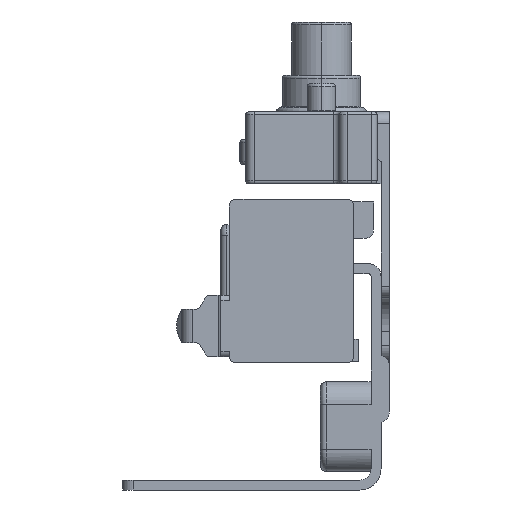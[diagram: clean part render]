
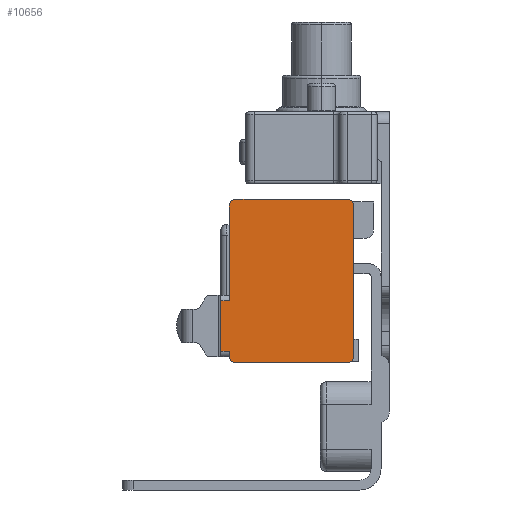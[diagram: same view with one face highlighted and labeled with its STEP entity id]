
A CAD part, left-side view. The second image highlights one B-rep face of the part: STEP entity #10656.
In plain terms, the highlighted planar face has unit normal (-1, 0, 0).
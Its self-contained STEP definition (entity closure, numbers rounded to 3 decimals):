
#89 = CARTESIAN_POINT ( 'NONE',  ( -328., 5.9, -40.46 ) ) ;
#92 = LINE ( 'NONE', #8483, #7431 ) ;
#232 = ORIENTED_EDGE ( 'NONE', *, *, #7773, .F. ) ;
#631 = VERTEX_POINT ( 'NONE', #11273 ) ;
#745 = CARTESIAN_POINT ( 'NONE',  ( -328., 27., -38.46 ) ) ;
#1003 = ORIENTED_EDGE ( 'NONE', *, *, #4484, .F. ) ;
#1057 = DIRECTION ( 'NONE',  ( 1., 0., 0. ) ) ;
#1077 = VERTEX_POINT ( 'NONE', #10969 ) ;
#1121 = ORIENTED_EDGE ( 'NONE', *, *, #7075, .F. ) ;
#1418 = VECTOR ( 'NONE', #10000, 1000. ) ;
#1499 = EDGE_CURVE ( 'NONE', #11502, #4355, #2665, .T. ) ;
#1536 = CARTESIAN_POINT ( 'NONE',  ( -328., 26., -39.46 ) ) ;
#1634 = AXIS2_PLACEMENT_3D ( 'NONE', #6784, #1057, #7779 ) ;
#1664 = VERTEX_POINT ( 'NONE', #4752 ) ;
#1735 = VERTEX_POINT ( 'NONE', #11536 ) ;
#1755 = VECTOR ( 'NONE', #9725, 1000. ) ;
#1789 = DIRECTION ( 'NONE',  ( 0., 0., -1. ) ) ;
#1886 = ORIENTED_EDGE ( 'NONE', *, *, #11052, .F. ) ;
#1951 = DIRECTION ( 'NONE',  ( 1., 0., 0. ) ) ;
#1997 = CARTESIAN_POINT ( 'NONE',  ( -328., 5.9, -39.46 ) ) ;
#2324 = EDGE_LOOP ( 'NONE', ( #4873, #3465, #1121, #4583, #1886, #232, #1003, #6996, #5151, #6050, #8710, #7364 ) ) ;
#2361 = DIRECTION ( 'NONE',  ( 1., 0., 0. ) ) ;
#2394 = EDGE_CURVE ( 'NONE', #6831, #1735, #5503, .T. ) ;
#2517 = DIRECTION ( 'NONE',  ( 0., 1., 0. ) ) ;
#2522 = EDGE_CURVE ( 'NONE', #8537, #10029, #9674, .T. ) ;
#2565 = AXIS2_PLACEMENT_3D ( 'NONE', #4824, #1951, #8667 ) ;
#2620 = VECTOR ( 'NONE', #8139, 1000. ) ;
#2665 = CIRCLE ( 'NONE', #3464, 1. ) ;
#2990 = DIRECTION ( 'NONE',  ( 0., 1., 0. ) ) ;
#3445 = CARTESIAN_POINT ( 'NONE',  ( -328., 28.5, -38.46 ) ) ;
#3464 = AXIS2_PLACEMENT_3D ( 'NONE', #1536, #8254, #2517 ) ;
#3465 = ORIENTED_EDGE ( 'NONE', *, *, #10278, .F. ) ;
#3471 = CARTESIAN_POINT ( 'NONE',  ( -328., 5.9, -40.46 ) ) ;
#3694 = LINE ( 'NONE', #4257, #1418 ) ;
#3795 = AXIS2_PLACEMENT_3D ( 'NONE', #8096, #2361, #9052 ) ;
#4164 = VERTEX_POINT ( 'NONE', #9493 ) ;
#4257 = CARTESIAN_POINT ( 'NONE',  ( -328., 28.5, -29.46 ) ) ;
#4355 = VERTEX_POINT ( 'NONE', #8940 ) ;
#4458 = VECTOR ( 'NONE', #11722, 1000. ) ;
#4484 = EDGE_CURVE ( 'NONE', #7776, #631, #7726, .T. ) ;
#4569 = DIRECTION ( 'NONE',  ( 0., 0., 1. ) ) ;
#4583 = ORIENTED_EDGE ( 'NONE', *, *, #2522, .F. ) ;
#4623 = LINE ( 'NONE', #4921, #1755 ) ;
#4752 = CARTESIAN_POINT ( 'NONE',  ( -328., 26., -11.43 ) ) ;
#4824 = CARTESIAN_POINT ( 'NONE',  ( -328., 5.9, -39.46 ) ) ;
#4873 = ORIENTED_EDGE ( 'NONE', *, *, #2394, .F. ) ;
#4921 = CARTESIAN_POINT ( 'NONE',  ( -328., 27., -12.43 ) ) ;
#5151 = ORIENTED_EDGE ( 'NONE', *, *, #1499, .F. ) ;
#5503 = CIRCLE ( 'NONE', #3795, 1. ) ;
#6007 = CARTESIAN_POINT ( 'NONE',  ( -328., 5.9, -11.43 ) ) ;
#6048 = EDGE_CURVE ( 'NONE', #1077, #7306, #7451, .T. ) ;
#6050 = ORIENTED_EDGE ( 'NONE', *, *, #6863, .F. ) ;
#6091 = EDGE_CURVE ( 'NONE', #4355, #7776, #4623, .T. ) ;
#6455 = CARTESIAN_POINT ( 'NONE',  ( -328., 27., -12.43 ) ) ;
#6486 = CARTESIAN_POINT ( 'NONE',  ( -328., 28.5, -39.46 ) ) ;
#6492 = EDGE_CURVE ( 'NONE', #1735, #1077, #92, .T. ) ;
#6784 = CARTESIAN_POINT ( 'NONE',  ( -328., 26., -12.43 ) ) ;
#6825 = CIRCLE ( 'NONE', #1634, 1. ) ;
#6826 = VECTOR ( 'NONE', #4569, 1000. ) ;
#6831 = VERTEX_POINT ( 'NONE', #10917 ) ;
#6863 = EDGE_CURVE ( 'NONE', #7306, #11502, #11775, .T. ) ;
#6992 = LINE ( 'NONE', #6007, #4458 ) ;
#6996 = ORIENTED_EDGE ( 'NONE', *, *, #6091, .F. ) ;
#7068 = CARTESIAN_POINT ( 'NONE',  ( -328., 27., -29.46 ) ) ;
#7075 = EDGE_CURVE ( 'NONE', #10029, #1664, #6825, .T. ) ;
#7120 = VECTOR ( 'NONE', #12075, 1000. ) ;
#7126 = LINE ( 'NONE', #6486, #6826 ) ;
#7306 = VERTEX_POINT ( 'NONE', #89 ) ;
#7364 = ORIENTED_EDGE ( 'NONE', *, *, #6492, .F. ) ;
#7431 = VECTOR ( 'NONE', #1789, 1000. ) ;
#7451 = CIRCLE ( 'NONE', #10926, 1. ) ;
#7726 = LINE ( 'NONE', #3445, #2620 ) ;
#7773 = EDGE_CURVE ( 'NONE', #631, #4164, #7126, .T. ) ;
#7776 = VERTEX_POINT ( 'NONE', #745 ) ;
#7779 = DIRECTION ( 'NONE',  ( 0., 1., 0. ) ) ;
#7807 = CARTESIAN_POINT ( 'NONE',  ( -328., 26., -40.46 ) ) ;
#8096 = CARTESIAN_POINT ( 'NONE',  ( -328., 5.9, -12.43 ) ) ;
#8139 = DIRECTION ( 'NONE',  ( 0., 1., 0. ) ) ;
#8228 = CARTESIAN_POINT ( 'NONE',  ( -328., 27., -12.43 ) ) ;
#8254 = DIRECTION ( 'NONE',  ( 1., 0., 0. ) ) ;
#8483 = CARTESIAN_POINT ( 'NONE',  ( -328., 4.9, -12.43 ) ) ;
#8537 = VERTEX_POINT ( 'NONE', #7068 ) ;
#8618 = PLANE ( 'NONE',  #2565 ) ;
#8667 = DIRECTION ( 'NONE',  ( 0., 1., 0. ) ) ;
#8699 = DIRECTION ( 'NONE',  ( 1., 0., 0. ) ) ;
#8710 = ORIENTED_EDGE ( 'NONE', *, *, #6048, .F. ) ;
#8940 = CARTESIAN_POINT ( 'NONE',  ( -328., 27., -39.46 ) ) ;
#9052 = DIRECTION ( 'NONE',  ( 0., 1., 0. ) ) ;
#9493 = CARTESIAN_POINT ( 'NONE',  ( -328., 28.5, -29.46 ) ) ;
#9674 = LINE ( 'NONE', #8228, #7120 ) ;
#9725 = DIRECTION ( 'NONE',  ( 0., 0., 1. ) ) ;
#10000 = DIRECTION ( 'NONE',  ( 0., -1., 0. ) ) ;
#10029 = VERTEX_POINT ( 'NONE', #6455 ) ;
#10163 = DIRECTION ( 'NONE',  ( 0., 1., 0. ) ) ;
#10278 = EDGE_CURVE ( 'NONE', #1664, #6831, #6992, .T. ) ;
#10656 = ADVANCED_FACE ( 'NONE', ( #11346 ), #8618, .F. ) ;
#10917 = CARTESIAN_POINT ( 'NONE',  ( -328., 5.9, -11.43 ) ) ;
#10926 = AXIS2_PLACEMENT_3D ( 'NONE', #1997, #8699, #2990 ) ;
#10969 = CARTESIAN_POINT ( 'NONE',  ( -328., 4.9, -39.46 ) ) ;
#11052 = EDGE_CURVE ( 'NONE', #4164, #8537, #3694, .T. ) ;
#11273 = CARTESIAN_POINT ( 'NONE',  ( -328., 28.5, -38.46 ) ) ;
#11346 = FACE_OUTER_BOUND ( 'NONE', #2324, .T. ) ;
#11498 = VECTOR ( 'NONE', #10163, 1000. ) ;
#11502 = VERTEX_POINT ( 'NONE', #7807 ) ;
#11536 = CARTESIAN_POINT ( 'NONE',  ( -328., 4.9, -12.43 ) ) ;
#11722 = DIRECTION ( 'NONE',  ( 0., -1., 0. ) ) ;
#11775 = LINE ( 'NONE', #3471, #11498 ) ;
#12075 = DIRECTION ( 'NONE',  ( 0., 0., 1. ) ) ;
